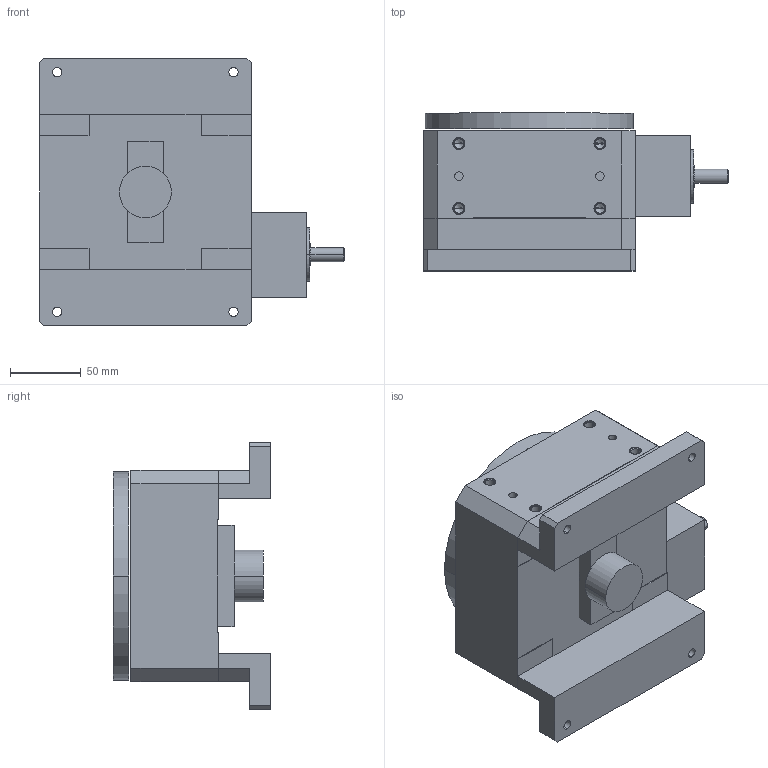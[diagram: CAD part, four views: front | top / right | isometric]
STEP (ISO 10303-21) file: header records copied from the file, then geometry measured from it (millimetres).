
FILE_DESCRIPTION((''),'2;1');
FILE_NAME('R150M7M00E1_ASM','2009-07-02T',('FK20128'),(''),'PRO/ENGINEER BY PARAMETRIC TECHNOLOGY CORPORATION, 2006200','PRO/ENGINEER BY PARAMETRIC TECHNOLOGY CORPORATION, 2006200','');
FILE_SCHEMA(('CONFIG_CONTROL_DESIGN'));
Length unit declared in the file: millimetre
Products named in the file (6): R150M; R150M-ENCODER-BRKT; R150M-ENCODER-STANDOFF; RXXXM-ENCODER; R150M-E1_ASM; R150M7M00E1_ASM
Assembly tree (6 placements, depth 3):
  R150M7M00E1_ASM
    R150M
    R150M-E1_ASM
      R150M-ENCODER-BRKT
      R150M-ENCODER-STANDOFF  x2
      RXXXM-ENCODER
Bounding box: 216.09 x 111.83 x 190 mm (x, y, z)
Volume: 2002963.8 mm3; surface area: 212438.7 mm2
Topology: 6 solids, 26 shells, 267 faces, 653 edges, 432 vertices
Faces by surface type: cylinder 140, plane 101, cone 26
Entity records: 7280 total; most frequent: DIRECTION 1387, CARTESIAN_POINT 1210, ORIENTED_EDGE 1062, EDGE_CURVE 567, AXIS2_PLACEMENT_3D 561, VERTEX_POINT 384, EDGE_LOOP 319, CIRCLE 302
